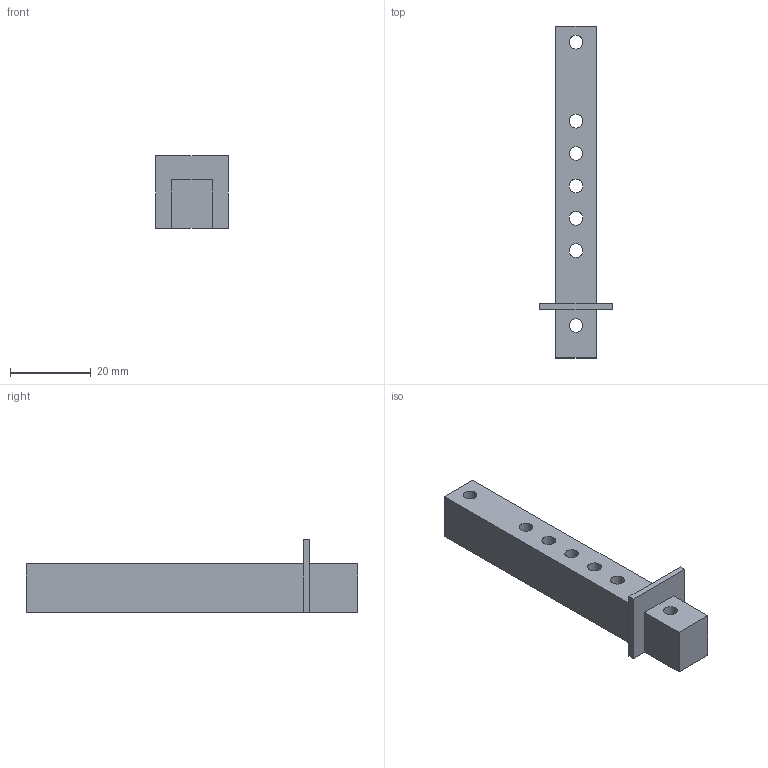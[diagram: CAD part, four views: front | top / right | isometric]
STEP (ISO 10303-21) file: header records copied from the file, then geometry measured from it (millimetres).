
FILE_DESCRIPTION(('Open CASCADE Model'),'2;1');
FILE_NAME('Open CASCADE Shape Model','2026-11-12T16:33:15',('Author'),( 'Open CASCADE'),'Open CASCADE STEP processor 7.9','Open CASCADE 7.9' ,'Unknown');
FILE_SCHEMA(('AUTOMOTIVE_DESIGN { 1 0 10303 214 1 1 1 1 }'));
Length unit declared in the file: millimetre
Products named in the file (1): Open CASCADE STEP translator 7.9 8
Bounding box: 18 x 82 x 18 mm (x, y, z)
Volume: 9383.3 mm3; surface area: 5068.1 mm2
Topology: 1 solids, 1 shells, 21 faces, 57 edges, 38 vertices
Faces by surface type: plane 14, cylinder 7
Full cylindrical faces by diameter (mm): 3.4 x7
Entity records: 1444 total; most frequent: CARTESIAN_POINT 231, DIRECTION 229, LINE 143, VECTOR 143, ORIENTED_EDGE 114, PCURVE 114, DEFINITIONAL_REPRESENTATION 114, EDGE_CURVE 57
